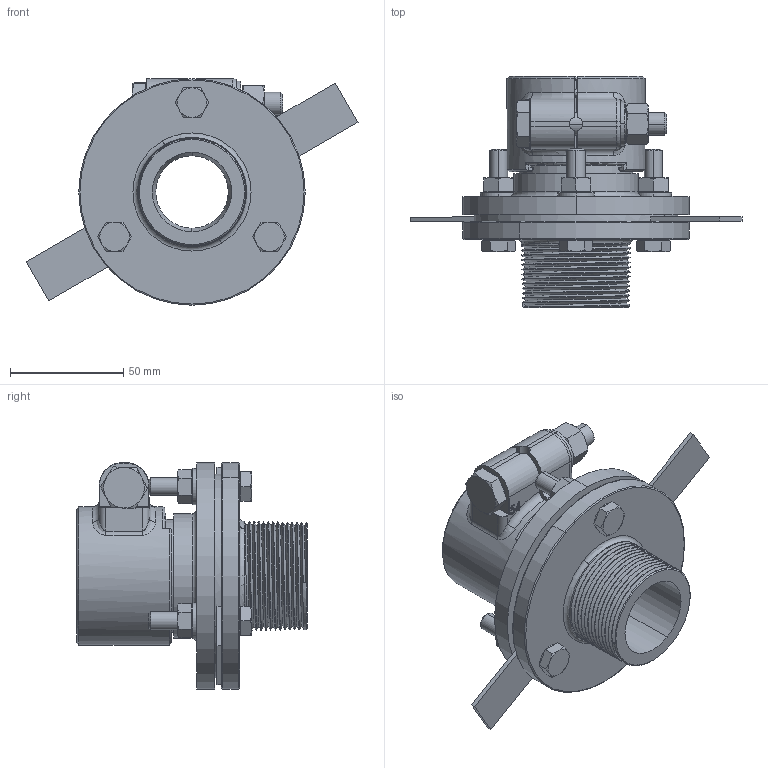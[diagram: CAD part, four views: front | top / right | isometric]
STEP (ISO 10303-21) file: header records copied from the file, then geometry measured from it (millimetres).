
FILE_DESCRIPTION (( 'STEP AP214' ), '1' );
FILE_NAME ('KP_C14-F54M.step', '2012-05-23T14:31:17', ( 'robinj' ), ( 'Microsoft' ), 'SwSTEP 2.0', 'SolidWorks 2012', '' );
FILE_SCHEMA (( 'AUTOMOTIVE_DESIGN' ));
Length unit declared in the file: millimetre
Products named in the file (1): KP_C14-F54M
Bounding box: 146.62 x 102 x 100 mm (x, y, z)
Volume: 235605 mm3; surface area: 107728.5 mm2
Topology: 17 solids, 17 shells, 674 faces, 1558 edges, 914 vertices
Faces by surface type: cylinder 215, plane 203, cone 123, torus 76, bspline 42, sphere 15
Entity records: 38190 total; most frequent: CARTESIAN_POINT 15579, DIRECTION 3200, ORIENTED_EDGE 3086, EDGE_CURVE 1543, AXIS2_PLACEMENT_3D 1310, VERTEX_POINT 914, EDGE_LOOP 731, UNCERTAINTY_MEASURE_WITH_UNIT 693
